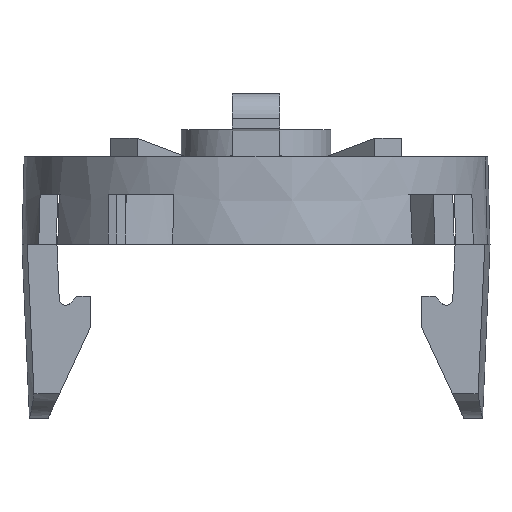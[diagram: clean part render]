
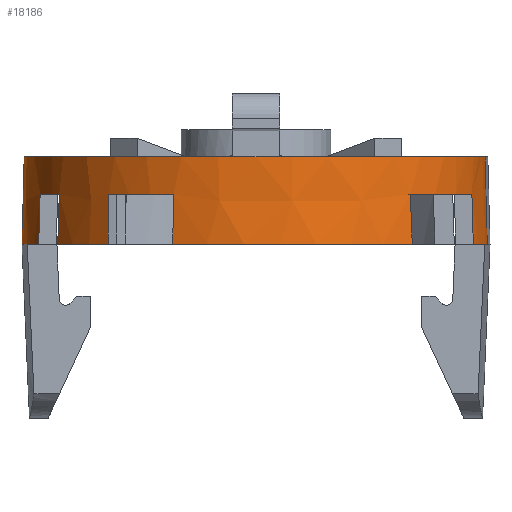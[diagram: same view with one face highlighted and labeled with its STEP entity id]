
A CAD part, front view. The second image highlights one B-rep face of the part: STEP entity #18186.
In plain terms, the highlighted conical face has half-angle 1.5 degrees and reference radius 18.617 mm.
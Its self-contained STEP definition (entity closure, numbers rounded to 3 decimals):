
#5986= CARTESIAN_POINT(' ',(-15.496,-10.318,7.));
#5987= VERTEX_POINT(' ',#5986);
#6001= CARTESIAN_POINT(' ',(0.,0.,7.));
#6006= DIRECTION(' ',(0.,0.,-1.));
#6011= DIRECTION(' ',(0.,-1.,0.));
#6016= AXIS2_PLACEMENT_3D(' ',#6001,#6006,#6011);
#6021= CIRCLE(' ',#6016,18.617);
#6026= CARTESIAN_POINT(' ',(0.,-18.617,7.));
#6027= VERTEX_POINT(' ',#6026);
#6031= EDGE_CURVE(' ',#6027,#5987,#6021,.T.);
#9451= CARTESIAN_POINT(' ',(-0.001,0.,7.));
#9456= DIRECTION(' ',(0.,0.,-1.));
#9461= DIRECTION(' ',(0.988,-0.156,0.));
#9466= AXIS2_PLACEMENT_3D(' ',#9451,#9456,#9461);
#9471= CIRCLE(' ',#9466,18.618);
#9476= CARTESIAN_POINT(' ',(18.387,-2.912,7.));
#9477= VERTEX_POINT(' ',#9476);
#9481= CARTESIAN_POINT(' ',(17.48,-6.406,7.));
#9482= VERTEX_POINT(' ',#9481);
#9486= EDGE_CURVE(' ',#9477,#9482,#9471,.T.);
#11686= CARTESIAN_POINT(' ',(-18.387,2.912,7.));
#11687= VERTEX_POINT(' ',#11686);
#11701= CARTESIAN_POINT(' ',(0.,0.,7.));
#11706= DIRECTION(' ',(0.,0.,-1.));
#11711= DIRECTION(' ',(-0.955,-0.296,0.));
#11716= AXIS2_PLACEMENT_3D(' ',#11701,#11706,#11711);
#11721= CIRCLE(' ',#11716,18.617);
#11726= CARTESIAN_POINT(' ',(-17.785,-5.503,7.));
#11727= VERTEX_POINT(' ',#11726);
#11731= EDGE_CURVE(' ',#11727,#11687,#11721,.T.);
#17366= CARTESIAN_POINT(' ',(-0.001,0.,7.));
#17371= DIRECTION(' ',(0.,0.,-1.));
#17376= DIRECTION(' ',(-0.832,-0.554,0.));
#17381= AXIS2_PLACEMENT_3D(' ',#17366,#17371,#17376);
#17386= CIRCLE(' ',#17381,18.616);
#17391= EDGE_CURVE(' ',#5987,#11727,#17386,.T.);
#17421= CARTESIAN_POINT(' ',(0.,0.,7.));
#17426= DIRECTION(' ',(0.,0.,-1.));
#17431= DIRECTION(' ',(0.988,-0.156,0.));
#17436= AXIS2_PLACEMENT_3D(' ',#17421,#17426,#17431);
#17441= CONICAL_SURFACE(' ',#17436,18.617,1.5);
#17446= CARTESIAN_POINT(' ',(0.,0.,0.));
#17451= DIRECTION(' ',(0.,0.,-1.));
#17456= DIRECTION(' ',(-0.977,-0.213,0.));
#17461= AXIS2_PLACEMENT_3D(' ',#17446,#17451,#17456);
#17466= CIRCLE(' ',#17461,18.8);
#17471= CARTESIAN_POINT(' ',(-18.37,-4.,0.));
#17472= VERTEX_POINT(' ',#17471);
#17476= CARTESIAN_POINT(' ',(-18.569,2.941,0.));
#17477= VERTEX_POINT(' ',#17476);
#17481= EDGE_CURVE(' ',#17472,#17477,#17466,.T.);
#17486= ORIENTED_EDGE(' ',*,*,#17481,.F.);
#17491= CARTESIAN_POINT(' ',(0.,0.,0.));
#17496= DIRECTION(' ',(0.,0.,1.));
#17501= DIRECTION(' ',(-0.977,-0.213,0.));
#17506= AXIS2_PLACEMENT_3D(' ',#17491,#17496,#17501);
#17511= CIRCLE(' ',#17506,18.8);
#17516= CARTESIAN_POINT(' ',(-17.448,-7.,0.));
#17517= VERTEX_POINT(' ',#17516);
#17521= EDGE_CURVE(' ',#17472,#17517,#17511,.T.);
#17526= ORIENTED_EDGE(' ',*,*,#17521,.T.);
#17531= CARTESIAN_POINT(' ',(-17.448,-7.,0.));
#17536= DIRECTION(' ',(0.028,0.,1.));
#17541= VECTOR(' ',#17536,1.);
#17546= LINE(' ',#17531,#17541);
#17551= CARTESIAN_POINT(' ',(-17.335,-7.,4.));
#17552= VERTEX_POINT(' ',#17551);
#17556= EDGE_CURVE(' ',#17517,#17552,#17546,.T.);
#17561= ORIENTED_EDGE(' ',*,*,#17556,.T.);
#17566= CARTESIAN_POINT(' ',(0.,0.,4.));
#17571= DIRECTION(' ',(0.,0.,1.));
#17576= DIRECTION(' ',(-0.927,-0.374,0.));
#17581= AXIS2_PLACEMENT_3D(' ',#17566,#17571,#17576);
#17586= CIRCLE(' ',#17581,18.695);
#17591= CARTESIAN_POINT(' ',(-15.796,-10.,4.));
#17592= VERTEX_POINT(' ',#17591);
#17596= EDGE_CURVE(' ',#17552,#17592,#17586,.T.);
#17601= ORIENTED_EDGE(' ',*,*,#17596,.T.);
#17606= CARTESIAN_POINT(' ',(-15.796,-10.,4.));
#17611= DIRECTION(' ',(-0.031,0.,-1.));
#17616= VECTOR(' ',#17611,1.);
#17621= LINE(' ',#17606,#17616);
#17626= CARTESIAN_POINT(' ',(-15.92,-10.,0.));
#17627= VERTEX_POINT(' ',#17626);
#17631= EDGE_CURVE(' ',#17592,#17627,#17621,.T.);
#17636= ORIENTED_EDGE(' ',*,*,#17631,.T.);
#17641= CARTESIAN_POINT(' ',(0.,0.,0.));
#17646= DIRECTION(' ',(0.,0.,1.));
#17651= DIRECTION(' ',(-0.847,-0.532,0.));
#17656= AXIS2_PLACEMENT_3D(' ',#17641,#17646,#17651);
#17661= CIRCLE(' ',#17656,18.8);
#17666= CARTESIAN_POINT(' ',(-11.878,-14.573,0.));
#17667= VERTEX_POINT(' ',#17666);
#17671= EDGE_CURVE(' ',#17627,#17667,#17661,.T.);
#17676= ORIENTED_EDGE(' ',*,*,#17671,.T.);
#17681= CARTESIAN_POINT(' ',(-11.878,-14.573,0.));
#17686= DIRECTION(' ',(0.013,0.023,1.));
#17691= VECTOR(' ',#17686,1.);
#17696= LINE(' ',#17681,#17691);
#17701= CARTESIAN_POINT(' ',(-11.825,-14.481,4.));
#17702= VERTEX_POINT(' ',#17701);
#17706= EDGE_CURVE(' ',#17667,#17702,#17696,.T.);
#17711= ORIENTED_EDGE(' ',*,*,#17706,.T.);
#17716= CARTESIAN_POINT(' ',(0.,0.,4.));
#17721= DIRECTION(' ',(0.,0.,1.));
#17726= DIRECTION(' ',(-0.632,-0.775,0.));
#17731= AXIS2_PLACEMENT_3D(' ',#17716,#17721,#17726);
#17736= CIRCLE(' ',#17731,18.695);
#17741= CARTESIAN_POINT(' ',(-6.628,-17.481,4.));
#17742= VERTEX_POINT(' ',#17741);
#17746= EDGE_CURVE(' ',#17702,#17742,#17736,.T.);
#17751= ORIENTED_EDGE(' ',*,*,#17746,.T.);
#17756= CARTESIAN_POINT(' ',(-6.628,-17.481,4.));
#17761= DIRECTION(' ',(-0.013,-0.023,-1.));
#17766= VECTOR(' ',#17761,1.);
#17771= LINE(' ',#17756,#17766);
#17776= CARTESIAN_POINT(' ',(-6.681,-17.573,0.));
#17777= VERTEX_POINT(' ',#17776);
#17781= EDGE_CURVE(' ',#17742,#17777,#17771,.T.);
#17786= ORIENTED_EDGE(' ',*,*,#17781,.T.);
#17791= CARTESIAN_POINT(' ',(0.,0.,0.));
#17796= DIRECTION(' ',(0.,0.,1.));
#17801= DIRECTION(' ',(-0.355,-0.935,0.));
#17806= AXIS2_PLACEMENT_3D(' ',#17791,#17796,#17801);
#17811= CIRCLE(' ',#17806,18.8);
#17816= CARTESIAN_POINT(' ',(12.548,-14.,0.));
#17817= VERTEX_POINT(' ',#17816);
#17821= EDGE_CURVE(' ',#17777,#17817,#17811,.T.);
#17826= ORIENTED_EDGE(' ',*,*,#17821,.T.);
#17831= CARTESIAN_POINT(' ',(12.548,-14.,0.));
#17836= DIRECTION(' ',(-0.039,0.,0.999));
#17841= VECTOR(' ',#17836,1.);
#17846= LINE(' ',#17831,#17841);
#17851= CARTESIAN_POINT(' ',(12.39,-14.,4.));
#17852= VERTEX_POINT(' ',#17851);
#17856= EDGE_CURVE(' ',#17817,#17852,#17846,.T.);
#17861= ORIENTED_EDGE(' ',*,*,#17856,.T.);
#17866= CARTESIAN_POINT(' ',(0.,0.,4.));
#17871= DIRECTION(' ',(0.,0.,1.));
#17876= DIRECTION(' ',(0.663,-0.749,0.));
#17881= AXIS2_PLACEMENT_3D(' ',#17866,#17871,#17876);
#17886= CIRCLE(' ',#17881,18.696);
#17891= CARTESIAN_POINT(' ',(17.335,-7.,4.));
#17892= VERTEX_POINT(' ',#17891);
#17896= EDGE_CURVE(' ',#17852,#17892,#17886,.T.);
#17901= ORIENTED_EDGE(' ',*,*,#17896,.T.);
#17906= CARTESIAN_POINT(' ',(17.335,-7.,4.));
#17911= DIRECTION(' ',(0.028,0.,-1.));
#17916= VECTOR(' ',#17911,1.);
#17921= LINE(' ',#17906,#17916);
#17926= CARTESIAN_POINT(' ',(17.448,-7.,0.));
#17927= VERTEX_POINT(' ',#17926);
#17931= EDGE_CURVE(' ',#17892,#17927,#17921,.T.);
#17936= ORIENTED_EDGE(' ',*,*,#17931,.T.);
#17941= CARTESIAN_POINT(' ',(0.,0.,0.));
#17946= DIRECTION(' ',(0.,0.,1.));
#17951= DIRECTION(' ',(0.928,-0.372,0.));
#17956= AXIS2_PLACEMENT_3D(' ',#17941,#17946,#17951);
#17961= CIRCLE(' ',#17956,18.8);
#17966= CARTESIAN_POINT(' ',(18.37,-4.,0.));
#17967= VERTEX_POINT(' ',#17966);
#17971= EDGE_CURVE(' ',#17927,#17967,#17961,.T.);
#17976= ORIENTED_EDGE(' ',*,*,#17971,.T.);
#17981= CARTESIAN_POINT(' ',(0.,0.,0.));
#17986= DIRECTION(' ',(0.,0.,-1.));
#17991= DIRECTION(' ',(0.988,-0.156,0.));
#17996= AXIS2_PLACEMENT_3D(' ',#17981,#17986,#17991);
#18001= CIRCLE(' ',#17996,18.8);
#18006= CARTESIAN_POINT(' ',(18.569,-2.941,0.));
#18007= VERTEX_POINT(' ',#18006);
#18011= EDGE_CURVE(' ',#18007,#17967,#18001,.T.);
#18016= ORIENTED_EDGE(' ',*,*,#18011,.F.);
#18021= CARTESIAN_POINT(' ',(18.569,-2.941,0.));
#18026= DIRECTION(' ',(-0.026,0.004,1.));
#18031= VECTOR(' ',#18026,1.);
#18036= LINE(' ',#18021,#18031);
#18041= EDGE_CURVE(' ',#18007,#9477,#18036,.T.);
#18046= ORIENTED_EDGE(' ',*,*,#18041,.T.);
#18051= ORIENTED_EDGE(' ',*,*,#9486,.T.);
#18056= CARTESIAN_POINT(' ',(-0.002,0.001,7.));
#18061= DIRECTION(' ',(0.,0.,-1.));
#18066= DIRECTION(' ',(0.939,-0.344,0.));
#18071= AXIS2_PLACEMENT_3D(' ',#18056,#18061,#18066);
#18076= CIRCLE(' ',#18071,18.618);
#18081= CARTESIAN_POINT(' ',(15.091,-10.902,7.));
#18082= VERTEX_POINT(' ',#18081);
#18086= EDGE_CURVE(' ',#9482,#18082,#18076,.T.);
#18091= ORIENTED_EDGE(' ',*,*,#18086,.T.);
#18096= CARTESIAN_POINT(' ',(0.,0.,7.));
#18101= DIRECTION(' ',(0.,0.,-1.));
#18106= DIRECTION(' ',(0.811,-0.586,0.));
#18111= AXIS2_PLACEMENT_3D(' ',#18096,#18101,#18106);
#18116= CIRCLE(' ',#18111,18.617);
#18121= EDGE_CURVE(' ',#18082,#6027,#18116,.T.);
#18126= ORIENTED_EDGE(' ',*,*,#18121,.T.);
#18131= ORIENTED_EDGE(' ',*,*,#6031,.T.);
#18136= ORIENTED_EDGE(' ',*,*,#17391,.T.);
#18141= ORIENTED_EDGE(' ',*,*,#11731,.T.);
#18146= CARTESIAN_POINT(' ',(-18.387,2.912,7.));
#18151= DIRECTION(' ',(-0.026,0.004,-1.));
#18156= VECTOR(' ',#18151,1.);
#18161= LINE(' ',#18146,#18156);
#18166= EDGE_CURVE(' ',#11687,#17477,#18161,.T.);
#18171= ORIENTED_EDGE(' ',*,*,#18166,.T.);
#18176= EDGE_LOOP(' ',(#17486,#17526,#17561,#17601,#17636,#17676,#17711,#17751,#17786,#17826,#17861,#17901,#17936,#17976,#18016,#18046,#18051,#18091,#18126,#18131,#18136,#18141,#18171));
#18181= FACE_OUTER_BOUND(' ',#18176,.T.);
#18186= ADVANCED_FACE(' ',(#18181),#17441,.T.);
